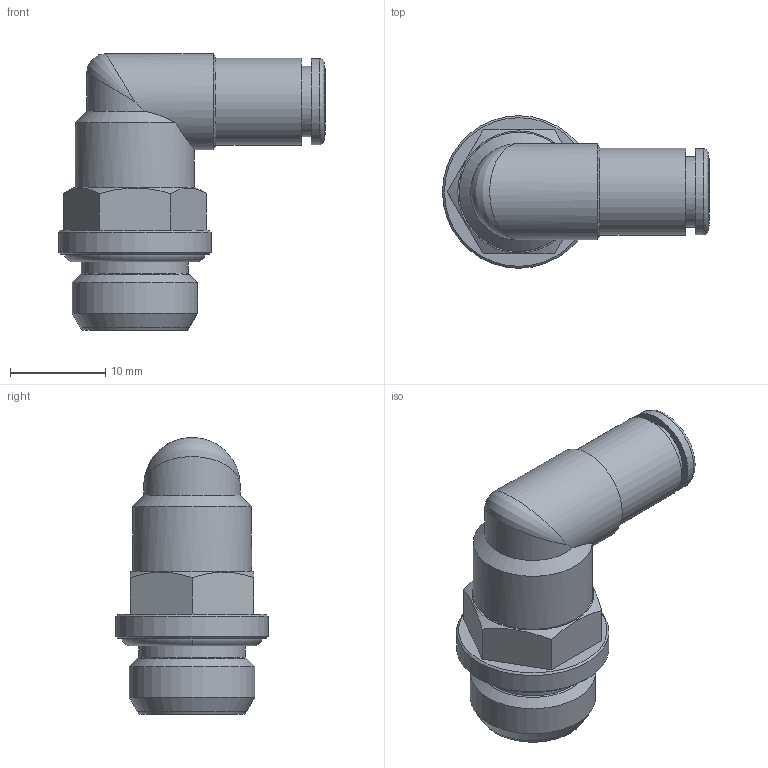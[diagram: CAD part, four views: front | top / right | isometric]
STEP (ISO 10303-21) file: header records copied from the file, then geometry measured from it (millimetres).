
FILE_DESCRIPTION(('Bauteilbeschreibung','HiCAD-Model','HiCAD-STEP-TRANSLATION','Bauteilbeschreibung'),'2;1');
FILE_NAME('B:/ABGLEICH/ZEICHNUNGEN/STEP FÜR INTERNET/STEP/202202_IPSO_022_4_1-4.STP','2011-09-15T16:43:32+00:00',('Konstrukteur'),('Konstrukteur Firma GmbH'),' HiCAD neXt 2008, Step 3.1.1401.2J ','HiCAD neXt 2008','confidential');
FILE_SCHEMA(('AUTOMOTIVE_DESIGN { 1 2 10303 214 0 1 1 1 }'));
Length unit declared in the file: millimetre
Products named in the file (7): A02202_IPSO_022_4_1_4; OR 11_11X1_78; A14603_N2_GEW__1_8_1_4; A146030N20GEW001080104; G 1_4; DR4_1_NEU; R202201_N2
Assembly tree (6 placements, depth 3):
  A02202_IPSO_022_4_1_4
    OR 11_11X1_78
    A14603_N2_GEW__1_8_1_4
    A146030N20GEW001080104
      G 1_4
    DR4_1_NEU
    R202201_N2
Bounding box: 28 x 16 x 29.05 mm (x, y, z)
Volume: 3101.7 mm3; surface area: 4276.5 mm2
Topology: 5 solids, 5 shells, 76 faces, 166 edges, 101 vertices
Faces by surface type: cone 24, cylinder 24, plane 20, torus 7, bspline 1
Full cylindrical faces by diameter (mm): 3 x1, 4.1 x2, 5.5 x1, 6 x1, 6.4 x1, 7.3 x1, 7.4 x1, 7.6 x1, 8.5 x1, 9 x3, 9.1 x1, 10.1 x3, 11.2 x1, 11.445 x2, 12.5 x1, 13.157 x1, 16 x1
Entity records: 3489 total; most frequent: CARTESIAN_POINT 1517, DIRECTION 330, ORIENTED_EDGE 192, AXIS2_PLACEMENT_3D 159, EDGE_LOOP 139, EDGE_CURVE 96, COLOUR_RGB 87, PRESENTATION_STYLE_ASSIGNMENT 87
